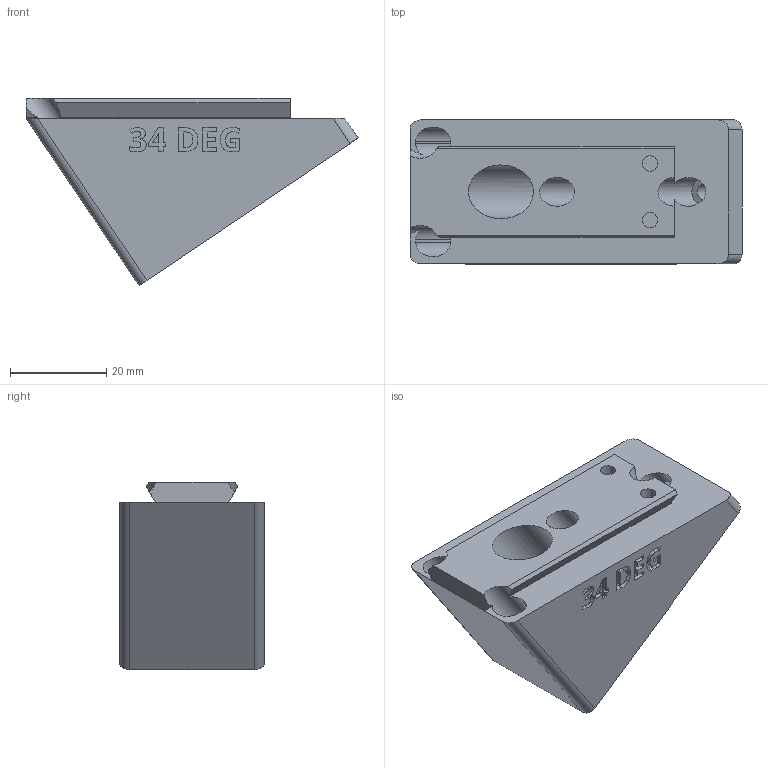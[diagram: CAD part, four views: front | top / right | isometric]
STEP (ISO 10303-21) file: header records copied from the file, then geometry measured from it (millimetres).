
FILE_DESCRIPTION(/* description */ ('STEP AP242 Edition 2','CAx-IF Rec.Pracs.---Representation and Presentation of Product Manufacturing Information (PMI)---4.0---2014-10-13','CAx-IF Rec.Pracs.---3D Tessellated Geometry---0.4---2014-09-14','2;1','CAx-IF Rec.Pracs.---User Defined Attributes---1.5---2016-08-15'),/* implementation_level */ '2;1');
FILE_NAME(/* name */ 'Camera Wedges - CAMERA MOUNTING WEDGE, POS, 34 DEG',/* time_stamp */ '2026-07-08T20:39:48Z',/* author */ (''),/* organization */ (''),/* preprocessor_version */ 'ST-DEVELOPER v20',/* originating_system */ 'ONSHAPE BY PTC INC, 1.217',/* authorisation */ ' ');
FILE_SCHEMA (('AP242_MANAGED_MODEL_BASED_3D_ENGINEERING_MIM_LF { 1 0 10303 442 3 1 4 }'));
Length unit declared in the file: metre
Products named in the file (1): CAMERA MOUNTING WEDGE, POS, 34 DEG
Bounding box: 69.14 x 30 x 39 mm (x, y, z)
Volume: 35282 mm3; surface area: 11887 mm2
Topology: 1 solids, 1 shells, 266 faces, 735 edges, 490 vertices
Faces by surface type: plane 154, bspline 64, cylinder 48
Full cylindrical faces by diameter (mm): 3.2 x4, 6 x2, 6.4 x1, 11.2 x1
Entity records: 8641 total; most frequent: CARTESIAN_POINT 2182, ORIENTED_EDGE 1448, DIRECTION 1113, EDGE_CURVE 724, VERTEX_POINT 487, LINE 485, VECTOR 485, AXIS2_PLACEMENT_3D 314
